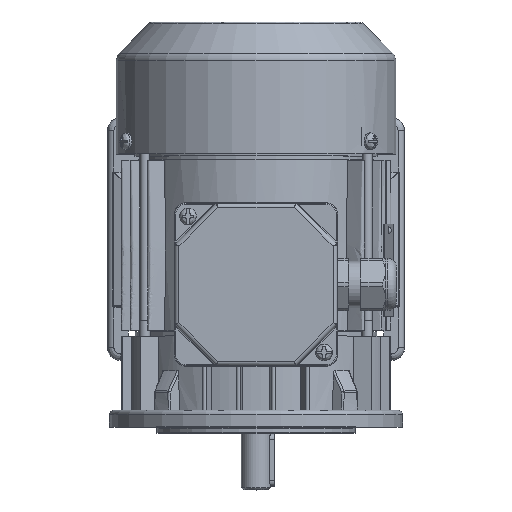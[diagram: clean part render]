
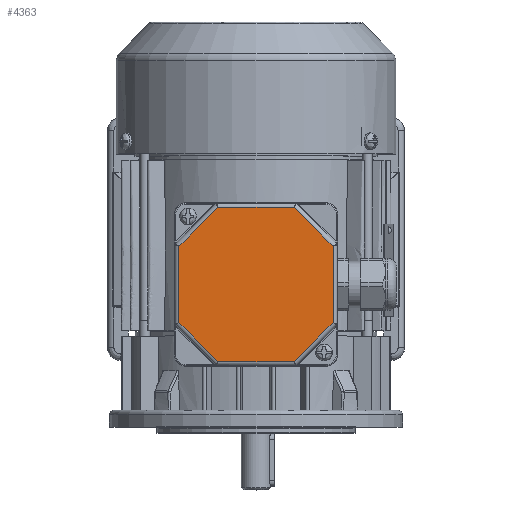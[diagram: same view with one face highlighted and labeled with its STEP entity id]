
A CAD part, top view. The second image highlights one B-rep face of the part: STEP entity #4363.
In plain terms, the highlighted planar face has unit normal (0, 0, 1).
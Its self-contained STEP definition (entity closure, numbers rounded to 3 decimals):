
#4363 = ADVANCED_FACE( '', ( #8660 ), #8661, .T. );
#8660 = FACE_OUTER_BOUND( '', #21877, .T. );
#8661 = PLANE( '', #21878 );
#21877 = EDGE_LOOP( '', ( #35982, #35983, #35984, #35985, #35986, #35987, #35988, #35989 ) );
#21878 = AXIS2_PLACEMENT_3D( '', #35990, #35991, #35992 );
#35982 = ORIENTED_EDGE( '', *, *, #40021, .T. );
#35983 = ORIENTED_EDGE( '', *, *, #40923, .T. );
#35984 = ORIENTED_EDGE( '', *, *, #43659, .T. );
#35985 = ORIENTED_EDGE( '', *, *, #42917, .T. );
#35986 = ORIENTED_EDGE( '', *, *, #39708, .T. );
#35987 = ORIENTED_EDGE( '', *, *, #40787, .T. );
#35988 = ORIENTED_EDGE( '', *, *, #41879, .T. );
#35989 = ORIENTED_EDGE( '', *, *, #40378, .T. );
#35990 = CARTESIAN_POINT( '', ( -39., 39., 12. ) );
#35991 = DIRECTION( '', ( 0., 0., 1. ) );
#35992 = DIRECTION( '', ( 1., 0., 0. ) );
#39708 = EDGE_CURVE( '', #50528, #50529, #50530, .F. );
#40021 = EDGE_CURVE( '', #51058, #51056, #51059, .F. );
#40378 = EDGE_CURVE( '', #51661, #51058, #51662, .T. );
#40787 = EDGE_CURVE( '', #50529, #49914, #52322, .T. );
#40923 = EDGE_CURVE( '', #51056, #52533, #52534, .T. );
#41879 = EDGE_CURVE( '', #49914, #51661, #53965, .F. );
#42917 = EDGE_CURVE( '', #55385, #50528, #55386, .T. );
#43659 = EDGE_CURVE( '', #52533, #55385, #56260, .F. );
#49914 = VERTEX_POINT( '', #59207 );
#50528 = VERTEX_POINT( '', #60702 );
#50529 = VERTEX_POINT( '', #60703 );
#50530 = LINE( '', #60704, #60705 );
#51056 = VERTEX_POINT( '', #61818 );
#51058 = VERTEX_POINT( '', #61820 );
#51059 = LINE( '', #61821, #61822 );
#51661 = VERTEX_POINT( '', #63585 );
#51662 = LINE( '', #63586, #63587 );
#52322 = LINE( '', #65301, #65302 );
#52533 = VERTEX_POINT( '', #65998 );
#52534 = LINE( '', #65999, #66000 );
#53965 = LINE( '', #69342, #69343 );
#55385 = VERTEX_POINT( '', #72664 );
#55386 = LINE( '', #72665, #72666 );
#56260 = LINE( '', #74986, #74987 );
#59207 = CARTESIAN_POINT( '', ( -18.255, -36.825, 12. ) );
#60702 = CARTESIAN_POINT( '', ( -36.825, 18.255, 12. ) );
#60703 = CARTESIAN_POINT( '', ( -36.825, -18.255, 12. ) );
#60704 = CARTESIAN_POINT( '', ( -36.825, -19.069, 12. ) );
#60705 = VECTOR( '', #79052, 1000. );
#61818 = CARTESIAN_POINT( '', ( 36.825, 18.255, 12. ) );
#61820 = CARTESIAN_POINT( '', ( 36.825, -18.255, 12. ) );
#61821 = CARTESIAN_POINT( '', ( 36.825, 19.069, 12. ) );
#61822 = VECTOR( '', #79411, 1000. );
#63585 = CARTESIAN_POINT( '', ( 18.255, -36.825, 12. ) );
#63586 = CARTESIAN_POINT( '', ( 37.401, -17.679, 12. ) );
#63587 = VECTOR( '', #79829, 1000. );
#65301 = CARTESIAN_POINT( '', ( -17.679, -37.401, 12. ) );
#65302 = VECTOR( '', #80296, 1000. );
#65998 = CARTESIAN_POINT( '', ( 18.255, 36.825, 12. ) );
#65999 = CARTESIAN_POINT( '', ( 17.679, 37.401, 12. ) );
#66000 = VECTOR( '', #80448, 1000. );
#69342 = CARTESIAN_POINT( '', ( 19.069, -36.825, 12. ) );
#69343 = VECTOR( '', #81583, 1000. );
#72664 = CARTESIAN_POINT( '', ( -18.255, 36.825, 12. ) );
#72665 = CARTESIAN_POINT( '', ( -37.401, 17.679, 12. ) );
#72666 = VECTOR( '', #82698, 1000. );
#74986 = CARTESIAN_POINT( '', ( -19.069, 36.825, 12. ) );
#74987 = VECTOR( '', #83331, 1000. );
#79052 = DIRECTION( '', ( 0., 1., 0. ) );
#79411 = DIRECTION( '', ( 0., -1., 0. ) );
#79829 = DIRECTION( '', ( 0.707, 0.707, 0. ) );
#80296 = DIRECTION( '', ( 0.707, -0.707, 0. ) );
#80448 = DIRECTION( '', ( -0.707, 0.707, 0. ) );
#81583 = DIRECTION( '', ( -1., 0., 0. ) );
#82698 = DIRECTION( '', ( -0.707, -0.707, 0. ) );
#83331 = DIRECTION( '', ( 1., 0., 0. ) );
